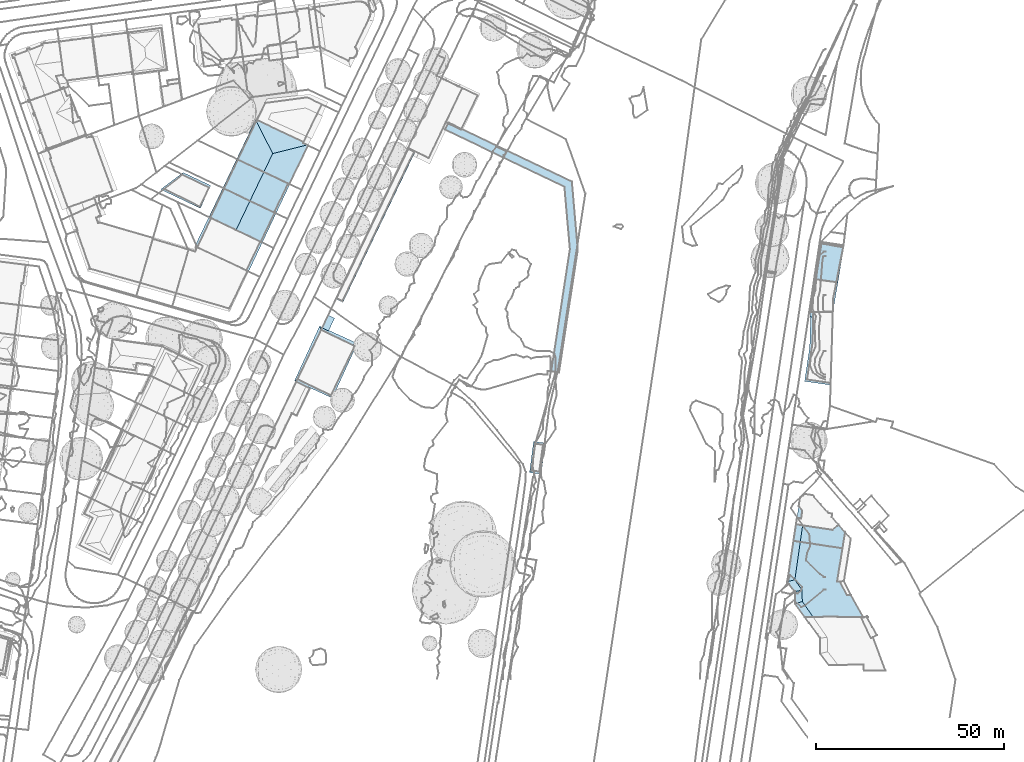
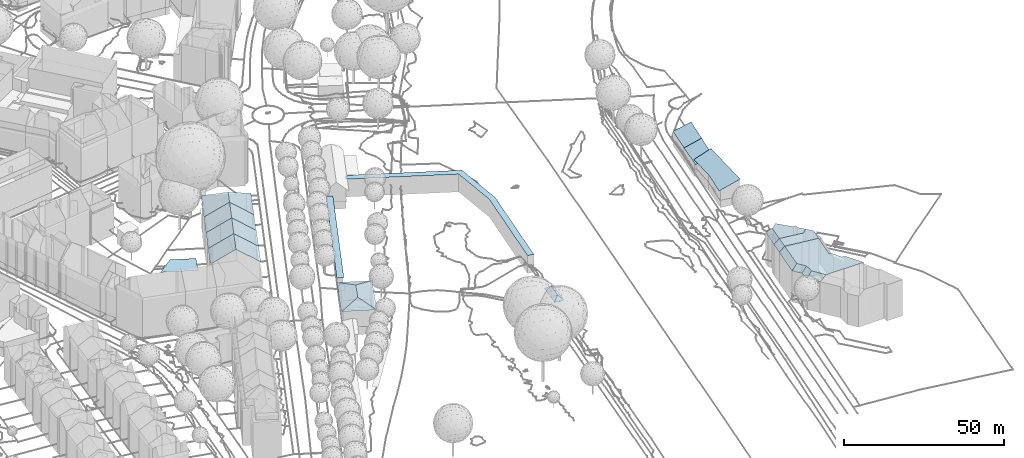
# Not in any storey, part 75 of 477: 16 roofs.
"""IFC4 building model written with IfcOpenShell, lengths in metres."""

from ifc_helpers import new_model, si_unit, frame, origin_with_axes, place, context, subcontext, project, spatial, polygons, element, save


model = new_model("IFC4")

# Units and contexts
model_context = context("Model", 3, precision=1e-05, world=origin_with_axes())
body_context = subcontext(model_context, "Body", "Model", "MODEL_VIEW")
ifc_project = project(units=[si_unit("AREAUNIT", "SQUARE_METRE"), si_unit("LENGTHUNIT", "METRE")], contexts=[model_context])

# Sites, building
site_1_placement = place(None, origin_with_axes())
site_1 = spatial("IfcSite", under=ifc_project, at=site_1_placement, Name="Topoexport Site")
site_2_placement = place(site_1_placement, origin_with_axes())
site_2 = spatial("IfcSite", under=site_1, at=site_2_placement, Name="TPX_BUILDINGS")
building_1_placement = place(site_2_placement, frame((512.0047320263, 129.124816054, 499.5905), z_axis=(0.0, 0.0, 1.0), x_axis=(1.0, 0.0, 0.0)))
building_1 = spatial("IfcBuilding", under=site_2, at=building_1_placement, Name="Building 8", CompositionType="ELEMENT")

# Roof
roof_1_placement = place(None, frame((512.0047320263, 129.124816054, 499.5905), z_axis=(0.0, 0.0, 1.0), x_axis=(1.0, 0.0, 0.0)))
element("IfcRoof", 1, at=roof_1_placement, inside=building_1, Name="Roof 0", context=body_context, shape_type="Tessellation", body=[
    polygons([(9.6339999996, -5.1123000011, 5.7434), (-0.9809999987, -0.0732000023, 5.7434), (5.0190000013, 4.4257999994, 5.7434), (12.370000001, 0.9667999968, 5.7434)], [[[3, 2, 1]], [[1, 4, 3]]]),
])

# Building
building_2_placement = place(site_2_placement, frame((211.8297320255, 101.9383160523, 526.7541), z_axis=(0.0, 0.0, 1.0), x_axis=(1.0, 0.0, 0.0)))
building_2 = spatial("IfcBuilding", under=site_2, at=building_2_placement, Name="Building 18", CompositionType="ELEMENT")

# Roofs
roof_2_placement = place(None, frame((211.8297320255, 101.9383160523, 526.7541), z_axis=(0.0, 0.0, 1.0), x_axis=(1.0, 0.0, 0.0)))
element("IfcRoof", 2, at=roof_2_placement, inside=building_2, Name="Roof 66", context=body_context, shape_type="Tessellation", body=[
    polygons([(365.1119999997, 38.0615000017, -22.2142), (365.0560000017, 38.1328000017, -22.2182), (365.1290000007, 38.0976000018, -22.2142), (345.7870000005, -2.0430000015, -22.2182), (347.7580000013, -2.9873000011, -22.1202), (367.0100000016, 37.1523000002, -22.1202)], [[[3, 2, 1]], [[4, 1, 2]], [[1, 4, 5]], [[1, 5, 6]]]),
])
roof_3_placement = place(None, frame((211.8297320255, 101.9383160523, 526.7541), z_axis=(0.0, 0.0, 1.0), x_axis=(1.0, 0.0, 0.0)))
element("IfcRoof", 3, at=roof_3_placement, inside=building_2, Name="Roof 67", context=body_context, shape_type="Tessellation", body=[
    polygons([(406.7970000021, 27.7353000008, -22.1141), (408.7730000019, 29.1035000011, -22.1141), (410.3399999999, 11.0537, -22.1142), (378.0860000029, 43.7851000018, -22.1142), (408.2400000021, 11.121100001, -22.1142), (403.262000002, -21.3594000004, -22.1142), (405.325000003, -21.6757999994, -22.1142), (377.9720000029, 43.5458999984, -22.1142), (374.9690000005, 42.9638000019, -22.1142), (375.7540000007, 44.6053999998, -22.1142)], [[[3, 2, 1]], [[1, 2, 4]], [[3, 1, 5]], [[7, 5, 6]], [[5, 7, 3]], [[4, 8, 1]], [[8, 10, 9]], [[8, 9, 1]]]),
])

# Building
building_3_placement = place(site_2_placement, frame((547.5007320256, 78.432416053, 499.3594), z_axis=(0.0, 0.0, 1.0), x_axis=(1.0, 0.0, 0.0)))
building_3 = spatial("IfcBuilding", under=site_2, at=building_3_placement, Name="Building 23", CompositionType="ELEMENT")

# Roofs
roof_4_placement = place(None, frame((547.5007320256, 78.432416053, 499.3594), z_axis=(0.0, 0.0, 1.0), x_axis=(1.0, 0.0, 0.0)))
element("IfcRoof", 4, at=roof_4_placement, inside=building_3, Name="Roof 0", context=body_context, shape_type="Tessellation", body=[
    polygons([(8.9700000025, 7.692400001, 11.3009), (6.1680000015, 1.5771999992, 11.3009), (6.3900000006, 13.1044999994, 9.7081), (5.8610000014, 14.2128999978, 9.3811), (0.1460000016, -0.0692999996, 9.6421), (-0.8000000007, -0.3291000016, 9.3811), (15.9260000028, 9.6035000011, 9.3811), (14.4840000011, 9.2071000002, 9.779), (9.2660000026, -4.938500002, 9.3811), (8.9290000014, -4.2294999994, 9.59)], [[[3, 2, 1]], [[5, 3, 4]], [[5, 2, 3]], [[6, 5, 4]], [[8, 7, 3]], [[3, 1, 8]], [[4, 3, 7]], [[10, 9, 7]], [[2, 10, 8]], [[2, 8, 1]], [[8, 10, 7]], [[5, 6, 10]], [[5, 10, 2]], [[10, 6, 9]]]),
])
roof_5_placement = place(None, frame((547.5007320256, 78.432416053, 499.3594), z_axis=(0.0, 0.0, 1.0), x_axis=(1.0, 0.0, 0.0)))
element("IfcRoof", 5, at=roof_5_placement, inside=building_3, Name="Roof 1", context=body_context, shape_type="Tessellation", body=[
    polygons([(9.8599999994, 16.2969000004, 6.3334), (8.2380000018, 12.936499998, 6.3334), (6.4000000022, 13.8233000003, 5.8254), (8.0210000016, 17.1845999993, 5.8254)], [[[3, 2, 1]], [[1, 4, 3]]]),
])

# Building
building_4_placement = place(site_2_placement, frame((524.2867320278, 121.4578160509, 499.2035), z_axis=(0.0, 0.0, 1.0), x_axis=(1.0, 0.0, 0.0)))
building_4 = spatial("IfcBuilding", under=site_2, at=building_4_placement, Name="Building 121", CompositionType="ELEMENT")

# Roof
roof_6_placement = place(None, frame((524.2867320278, 121.4578160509, 499.2035), z_axis=(0.0, 0.0, 1.0), x_axis=(1.0, 0.0, 0.0)))
element("IfcRoof", 6, at=roof_6_placement, inside=building_4, Name="Roof 0", context=body_context, shape_type="Tessellation", body=[
    polygons([(10.5229999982, 4.4726999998, 20.415), (10.5529999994, -5.0458999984, 17.6683), (6.8169999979, -3.2597999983, 20.415), (12.8429999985, 3.3662, 18.7102), (17.4629999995, 1.1601999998, 15.2035), (13.800999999, -6.5986000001, 15.2035), (17.1490000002, 1.3096000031, 15.4415), (13.4179999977, -6.4159999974, 15.4935), (1.7060000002, -0.8173999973, 16.7314), (7.3479999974, 5.9893000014, 18.1272), (0.0, 0.0, 15.5015), (3.6799999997, 7.7393000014, 15.4875), (-0.4140000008, 0.1983000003, 15.2035), (3.2859999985, 7.9268000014, 15.2035)], [[[3, 2, 1]], [[4, 1, 2]], [[7, 6, 5]], [[8, 7, 4]], [[8, 6, 7]], [[8, 4, 2]], [[1, 10, 9]], [[9, 3, 1]], [[11, 9, 10]], [[13, 11, 12]], [[12, 14, 13]], [[10, 12, 11]]]),
])

# Building
building_5_placement = place(site_2_placement, frame((531.6427320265, 136.9305160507, 499.2035), z_axis=(0.0, 0.0, 1.0), x_axis=(1.0, 0.0, 0.0)))
building_5 = spatial("IfcBuilding", under=site_2, at=building_5_placement, Name="Building 123", CompositionType="ELEMENT")

# Roof
roof_7_placement = place(None, frame((531.6427320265, 136.9305160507, 499.2035), z_axis=(0.0, 0.0, 1.0), x_axis=(1.0, 0.0, 0.0)))
element("IfcRoof", 7, at=roof_7_placement, inside=building_5, Name="Roof 0", context=body_context, shape_type="Tessellation", body=[
    polygons([(6.8680000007, -3.2743999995, 20.415), (5.6290000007, -2.6835999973, 19.5221), (9.2380000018, 1.6699000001, 20.415), (4.936999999, 10.1816000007, 15.5105), (7.7740000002, -3.7070999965, 19.7491), (-0.3720000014, 0.1787, 15.2035), (5.0969999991, 10.5166000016, 15.2035), (4.6730000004, 10.7158000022, 15.2035), (17.4730000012, 4.6709000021, 15.2035), (18.7780000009, 4.0556000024, 15.2035), (18.2939999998, 3.9345000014, 15.4675), (18.6440000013, 3.7666000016, 15.2035), (13.699000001, -6.5322999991, 15.2535), (13.7650000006, -6.5644999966, 15.2035)], [[[3, 2, 1]], [[4, 2, 3]], [[5, 3, 1]], [[2, 4, 6]], [[8, 4, 7]], [[9, 7, 4]], [[8, 6, 4]], [[11, 10, 9]], [[4, 3, 11]], [[4, 11, 9]], [[11, 13, 12]], [[10, 11, 12]], [[14, 12, 13]], [[13, 3, 5]], [[13, 11, 3]]]),
])

# Building
building_6_placement = place(site_2_placement, frame((520.8127320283, 113.5652160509, 499.2035), z_axis=(0.0, 0.0, 1.0), x_axis=(1.0, 0.0, 0.0)))
building_6 = spatial("IfcBuilding", under=site_2, at=building_6_placement, Name="Building 125", CompositionType="ELEMENT")

# Roof
roof_8_placement = place(None, frame((520.8127320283, 113.5652160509, 499.2035), z_axis=(0.0, 0.0, 1.0), x_axis=(1.0, 0.0, 0.0)))
element("IfcRoof", 8, at=roof_8_placement, inside=building_6, Name="Roof 0", context=body_context, shape_type="Tessellation", body=[
    polygons([(10.2909999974, 4.6328000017, 20.415), (11.7469999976, -5.5292999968, 16.6324), (6.5859999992, -3.1004999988, 20.415), (14.0269999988, 2.8467000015, 17.6683), (17.2749999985, 1.2939999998, 15.2035), (13.6339999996, -6.4188999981, 15.2035), (16.7569999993, 1.5411000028, 15.5965), (13.0939999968, -6.1630999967, 15.6124), (-0.1160000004, 0.3457000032, 15.5155), (0.0, 0.0, 15.6805), (-0.2660000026, 0.125, 15.4895), (0.9189999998, 1.933600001, 15.6765), (-0.2130000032, 0.568400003, 15.3965), (5.1799999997, 7.0752000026, 16.7314), (3.6999999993, 7.7842000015, 15.6645), (3.0599999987, 8.0909000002, 15.2035), (-0.3690000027, 0.9287, 15.2035)], [[[3, 2, 1]], [[4, 1, 2]], [[7, 6, 5]], [[8, 7, 4]], [[8, 6, 7]], [[2, 8, 4]], [[11, 10, 9]], [[13, 9, 12]], [[10, 12, 9]], [[12, 3, 14]], [[3, 12, 10]], [[1, 14, 3]], [[14, 15, 12]], [[12, 15, 16]], [[12, 17, 13]], [[17, 12, 16]]]),
])

# Building
building_7_placement = place(site_2_placement, frame((609.8397320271, 54.1307160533, 498.4355), z_axis=(0.0, 0.0, 1.0), x_axis=(1.0, 0.0, 0.0)))
building_7 = spatial("IfcBuilding", under=site_2, at=building_7_placement, Name="Building 170", CompositionType="ELEMENT")

# Roof
roof_9_placement = place(None, frame((609.8397320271, 54.1307160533, 498.4355), z_axis=(0.0, 0.0, 1.0), x_axis=(1.0, 0.0, 0.0)))
element("IfcRoof", 9, at=roof_9_placement, inside=building_7, Name="Roof 0", context=body_context, shape_type="Tessellation", body=[
    polygons([(1.8539999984, 6.0449000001, 8.3572), (0.0700000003, -0.009800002, 7.3982), (1.006000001, 7.1210999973, 7.4153), (0.4829999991, 7.7831999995, 6.8353), (-0.5810000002, -0.4785000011, 6.8353), (1.1779999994, 0.7890000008, 8.3572), (1.1779999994, 7.6942999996, 6.7943), (2.75, 6.8993999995, 7.3873), (1.4270000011, 7.0858999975, 7.3703), (3.6259999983, 7.378899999, 6.8353), (2.563000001, -0.8819000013, 6.8353), (2.068, -0.2822999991, 7.3802), (2.9510000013, 6.8710999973, 7.4153), (3.2969999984, 7.4208999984, 6.7943)], [[[3, 2, 1]], [[5, 3, 4]], [[1, 2, 6]], [[2, 3, 5]], [[9, 8, 7]], [[12, 11, 10]], [[6, 12, 13]], [[6, 13, 1]], [[13, 12, 10]], [[2, 12, 6]], [[7, 4, 9]], [[3, 1, 9]], [[3, 9, 4]], [[8, 14, 7]], [[8, 9, 1]], [[8, 1, 13]], [[10, 14, 8]], [[10, 8, 13]], [[5, 12, 2]], [[5, 11, 12]]]),
])

# Building
building_8_placement = place(site_2_placement, frame((684.2617320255, 96.3514160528, 500.8642), z_axis=(0.0, 0.0, 1.0), x_axis=(1.0, 0.0, 0.0)))
building_8 = spatial("IfcBuilding", under=site_2, at=building_8_placement, Name="Building 183", CompositionType="ELEMENT")

# Roof
roof_10_placement = place(None, frame((684.2617320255, 96.3514160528, 500.8642), z_axis=(0.0, 0.0, 1.0), x_axis=(1.0, 0.0, 0.0)))
element("IfcRoof", 10, at=roof_10_placement, inside=building_8, Name="Roof 0", context=body_context, shape_type="Tessellation", body=[
    polygons([(5.370000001, -0.0430000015, 7.2683), (3.1030000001, 0.0555999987, 6.4674), (4.1980000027, 8.2861000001, 6.3414), (2.7919999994, 0.0507000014, 6.3584), (2.0870000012, 0.0370999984, 6.1124), (1.2820000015, 8.7118999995, 5.2935), (-0.299999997, -1.2226999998, 5.3535), (0.631000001, 0.0117000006, 5.6035), (0.6009999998, -1.2393000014, 5.6705), (5.8159999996, 0.2256000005, 7.4143), (6.7369999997, 7.9149999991, 7.2903), (7.1099999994, 7.8612999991, 7.4293), (5.768000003, -0.0595999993, 7.4143)], [[[3, 2, 1]], [[2, 3, 4]], [[5, 4, 3]], [[3, 6, 5]], [[8, 6, 7]], [[8, 7, 9]], [[8, 5, 6]], [[11, 3, 10]], [[12, 11, 10]], [[13, 10, 1]], [[1, 10, 3]]]),
])

# Building
building_9_placement = place(site_2_placement, frame((685.554732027, 105.061316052, 500.8642), z_axis=(0.0, 0.0, 1.0), x_axis=(1.0, 0.0, 0.0)))
building_9 = spatial("IfcBuilding", under=site_2, at=building_9_placement, Name="Building 184", CompositionType="ELEMENT")

# Roof
roof_11_placement = place(None, frame((685.554732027, 105.061316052, 500.8642), z_axis=(0.0, 0.0, 1.0), x_axis=(1.0, 0.0, 0.0)))
element("IfcRoof", 11, at=roof_11_placement, inside=building_9, Name="Roof 0", context=body_context, shape_type="Tessellation", body=[
    polygons([(0.2650000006, 1.7382999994, 5.2825), (2.9050000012, -0.4237999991, 6.3414), (-0.0109999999, 0.0020000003, 5.2935), (1.5040000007, 9.5225000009, 5.2355), (7.3979999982, 8.4794999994, 7.4483), (5.8169999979, -0.8486000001, 7.4293), (7.2569999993, 8.503899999, 7.3953), (5.4439999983, -0.7949000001, 7.2903)], [[[3, 2, 1]], [[1, 2, 4]], [[7, 6, 5]], [[8, 7, 4]], [[8, 6, 7]], [[8, 4, 2]]]),
])

# Building
building_10_placement = place(site_2_placement, frame((683.2027320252, 78.373816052, 500.4062), z_axis=(0.0, 0.0, 1.0), x_axis=(1.0, 0.0, 0.0)))
building_10 = spatial("IfcBuilding", under=site_2, at=building_10_placement, Name="Building 185", CompositionType="ELEMENT")

# Roof
roof_12_placement = place(None, frame((683.2027320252, 78.373816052, 500.4062), z_axis=(0.0, 0.0, 1.0), x_axis=(1.0, 0.0, 0.0)))
element("IfcRoof", 12, at=roof_12_placement, inside=building_10, Name="Roof 0", context=body_context, shape_type="Tessellation", body=[
    polygons([(6.8630000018, 17.7686000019, 9.1902), (6.3260000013, -1.4199000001, 9.4761), (6.0340000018, -0.9061999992, 9.3541), (1.4649999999, 9.7657000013, 7.3743), (0.6540000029, 8.5625, 7.1014), (6.9590000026, 17.9121000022, 9.2222), (0.944000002, 18.1709000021, 6.9364), (4.1540000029, 18.0331999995, 8.1563), (6.8670000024, 17.9160000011, 9.1872), (-0.6909999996, -0.4393999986, 6.8514)], [[[3, 2, 1]], [[5, 3, 4]], [[6, 1, 2]], [[4, 3, 1]], [[5, 4, 7]], [[7, 4, 8]], [[1, 6, 9]], [[9, 8, 1]], [[1, 8, 4]], [[2, 3, 10]], [[5, 10, 3]]]),
])

# Building
building_11_placement = place(site_2_placement, frame((677.9527320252, 24.5545160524, 498.9643), z_axis=(0.0, 0.0, 1.0), x_axis=(1.0, 0.0, 0.0)))
building_11 = spatial("IfcBuilding", under=site_2, at=building_11_placement, Name="Building 186", CompositionType="ELEMENT")

# Roof
roof_13_placement = place(None, frame((677.9527320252, 24.5545160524, 498.9643), z_axis=(0.0, 0.0, 1.0), x_axis=(1.0, 0.0, 0.0)))
element("IfcRoof", 13, at=roof_13_placement, inside=building_11, Name="Roof 0", context=body_context, shape_type="Tessellation", body=[
    polygons([(3.8830000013, -2.2100000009, 13.6637), (2.0090000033, -2.5703000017, 11.8178), (1.9700000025, 0.5351999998, 13.6637), (0.0080000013, 0.0546999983, 11.8568), (0.0, 0.0, 11.8178), (-0.0339999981, 0.0439000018, 11.8178), (3.9480000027, -5.2060999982, 13.6637), (13.25, -0.0331999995, 13.7346), (14.0109999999, 0.004900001, 13.7346), (3.4070000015, 10.5762000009, 13.6597), (1.6420000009, 10.8427999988, 11.8719), (5.2590000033, -9.4111000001, 12.3008), (6.8360000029, -9.3916000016, 13.6636), (4.6590000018, -9.4189999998, 11.8428), (2.0530000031, -5.8740000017, 11.8578), (4.626000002, -9.4208999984, 11.8178), (2.0109999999, -5.8887000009, 11.8178), (2.0100000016, -3.6484000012, 11.8178), (11.2930000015, 9.3838, 13.7127), (14.6840000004, 8.871100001, 13.7347), (0.7640000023, 5.3467000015, 11.8179), (13.1760000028, -9.3145000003, 13.6986), (15.8880000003, -3.5498000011, 13.7346), (13.444000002, -9.3115000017, 13.6986), (16.9450000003, -3.5938000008, 13.7346), (20.2259999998, -9.3955000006, 13.7346), (19.5860000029, -9.4032999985, 13.7346), (13.4460000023, -9.4814999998, 13.6966), (1.5899999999, 10.8506000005, 11.8179)], [[[3, 2, 1]], [[5, 2, 4]], [[4, 6, 5]], [[3, 4, 2]], [[2, 7, 1]], [[7, 9, 8]], [[11, 3, 10]], [[13, 7, 12]], [[14, 12, 7]], [[16, 14, 15]], [[16, 15, 17]], [[15, 14, 7]], [[2, 18, 7]], [[15, 7, 18]], [[17, 15, 18]], [[7, 8, 1]], [[3, 1, 8]], [[20, 19, 8]], [[3, 8, 19]], [[3, 19, 10]], [[6, 4, 21]], [[3, 11, 21]], [[3, 21, 4]], [[23, 7, 22]], [[22, 7, 13]], [[23, 22, 24]], [[27, 26, 25]], [[27, 25, 24]], [[9, 7, 23]], [[23, 24, 25]], [[28, 27, 24]], [[21, 11, 29]]]),
])

# Building
building_12_placement = place(site_2_placement, frame((680.2557320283, 39.7986160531, 498.9643), z_axis=(0.0, 0.0, 1.0), x_axis=(1.0, 0.0, 0.0)))
building_12 = spatial("IfcBuilding", under=site_2, at=building_12_placement, Name="Building 188", CompositionType="ELEMENT")

# Roof
roof_14_placement = place(None, frame((680.2557320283, 39.7986160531, 498.9643), z_axis=(0.0, 0.0, 1.0), x_axis=(1.0, 0.0, 0.0)))
element("IfcRoof", 14, at=roof_14_placement, inside=building_12, Name="Roof 0", context=body_context, shape_type="Tessellation", body=[
    polygons([(1.2029999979, 1.5331999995, 12.8738), (1.7339999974, -0.2626999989, 13.6577), (0.6609999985, -0.1006000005, 12.5678), (2.5859999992, 5.6884999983, 13.6547), (10.9210000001, -0.3857000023, 13.7177), (9.6899999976, -1.4638000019, 13.7117), (2.305999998, 8.0927999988, 11.8169), (1.0309999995, 7.2001999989, 11.8179), (2.3339999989, 8.0907999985, 11.8179), (4.2209999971, 7.9677999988, 11.8179), (6.5229999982, 5.4571000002, 13.7067), (4.7719999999, 7.4228999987, 13.6807), (8.4100000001, 3.3378999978, 13.7347), (8.7239999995, 2.9824999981, 13.7347), (9.6909999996, 1.8876999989, 13.7347), (11.3259999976, -0.0322000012, 13.7337), (11.3589999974, -0.0029000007, 13.7347), (9.6409999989, 3.0995999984, 13.7347), (-0.0500000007, 0.0077999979, 11.8179), (4.4139999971, 7.7773999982, 12.4708)], [[[3, 2, 1]], [[4, 1, 2]], [[6, 5, 4]], [[4, 2, 6]], [[8, 4, 7]], [[7, 4, 9]], [[10, 9, 4]], [[12, 4, 11]], [[13, 11, 4]], [[4, 14, 13]], [[14, 4, 15]], [[17, 4, 16]], [[4, 17, 15]], [[4, 5, 16]], [[18, 13, 14]], [[18, 14, 15]], [[1, 4, 8]], [[1, 19, 3]], [[1, 8, 19]], [[20, 4, 12]], [[4, 20, 10]]]),
])

# Building
building_13_placement = place(site_2_placement, frame((679.5947320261, 35.3973160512, 498.9643), z_axis=(0.0, 0.0, 1.0), x_axis=(1.0, 0.0, 0.0)))
building_13 = spatial("IfcBuilding", under=site_2, at=building_13_placement, Name="Building 189", CompositionType="ELEMENT")

# Roof
roof_15_placement = place(None, frame((679.5947320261, 35.3973160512, 498.9643), z_axis=(0.0, 0.0, 1.0), x_axis=(1.0, 0.0, 0.0)))
element("IfcRoof", 15, at=roof_15_placement, inside=building_13, Name="Roof 0", context=body_context, shape_type="Tessellation", body=[
    polygons([(2.3949999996, 4.138600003, 13.6577), (1.7650000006, -0.2665999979, 13.6597), (1.3220000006, 4.3007000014, 12.5678), (0.0, 0.0, 11.8719), (10.3509999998, 2.9375, 13.7117), (13.5549999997, 2.5780999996, 13.7327), (13.7520000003, 2.4345000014, 13.7347), (11.5820000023, 4.0155999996, 13.7177), (9.6510000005, -1.4589999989, 13.7127), (13.0419999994, -1.9706999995, 13.7347), (13.7410000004, 2.3652000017, 13.7347), (12.0199999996, 4.3984000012, 13.7347), (11.9869999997, 4.3691000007, 13.7337), (-0.0520000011, 0.0078000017, 11.8179), (0.6110000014, 4.4090999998, 11.8179)], [[[3, 2, 1]], [[2, 3, 4]], [[7, 6, 5]], [[6, 8, 5]], [[5, 1, 2]], [[2, 9, 5]], [[5, 9, 7]], [[11, 9, 10]], [[9, 11, 7]], [[6, 7, 12]], [[13, 8, 6]], [[12, 13, 6]], [[14, 4, 3]], [[3, 15, 14]]]),
])

# Building
building_14_placement = place(site_2_placement, frame((527.9667320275, 129.1980160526, 499.2035), z_axis=(0.0, 0.0, 1.0), x_axis=(1.0, 0.0, 0.0)))
building_14 = spatial("IfcBuilding", under=site_2, at=building_14_placement, Name="Building 196", CompositionType="ELEMENT")

# Roof
roof_16_placement = place(None, frame((527.9667320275, 129.1980160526, 499.2035), z_axis=(0.0, 0.0, 1.0), x_axis=(1.0, 0.0, 0.0)))
element("IfcRoof", 16, at=roof_16_placement, inside=building_14, Name="Roof 0", context=body_context, shape_type="Tessellation", body=[
    polygons([(10.5439999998, 4.4580999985, 20.415), (9.1629999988, -4.3740000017, 18.7102), (6.8429999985, -3.2675000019, 20.415), (11.4499999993, 4.0254000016, 19.7491), (17.4409999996, 1.1680000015, 15.2035), (13.4690000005, -6.4305999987, 15.4415), (17.373999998, 1.1992999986, 15.2545), (13.7829999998, -6.5800000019, 15.2035), (3.6679999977, -1.7509000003, 18.1272), (9.3049999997, 5.0489000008, 19.5221), (3.675999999, 7.7324999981, 15.4715), (0.0, 0.0, 15.4865), (-0.3940000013, 0.1865999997, 15.2035), (3.3039999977, 7.9111999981, 15.2035), (12.6279999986, -6.0282999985, 15.9304), (13.4690000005, -6.4305999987, 15.2415)], [[[3, 2, 1]], [[4, 1, 2]], [[7, 6, 5]], [[2, 7, 4]], [[6, 8, 5]], [[2, 6, 7]], [[1, 10, 9]], [[9, 3, 1]], [[12, 9, 11]], [[13, 12, 11]], [[11, 14, 13]], [[10, 11, 9]], [[2, 16, 15]]]),
])

save(model, "model.ifc")
